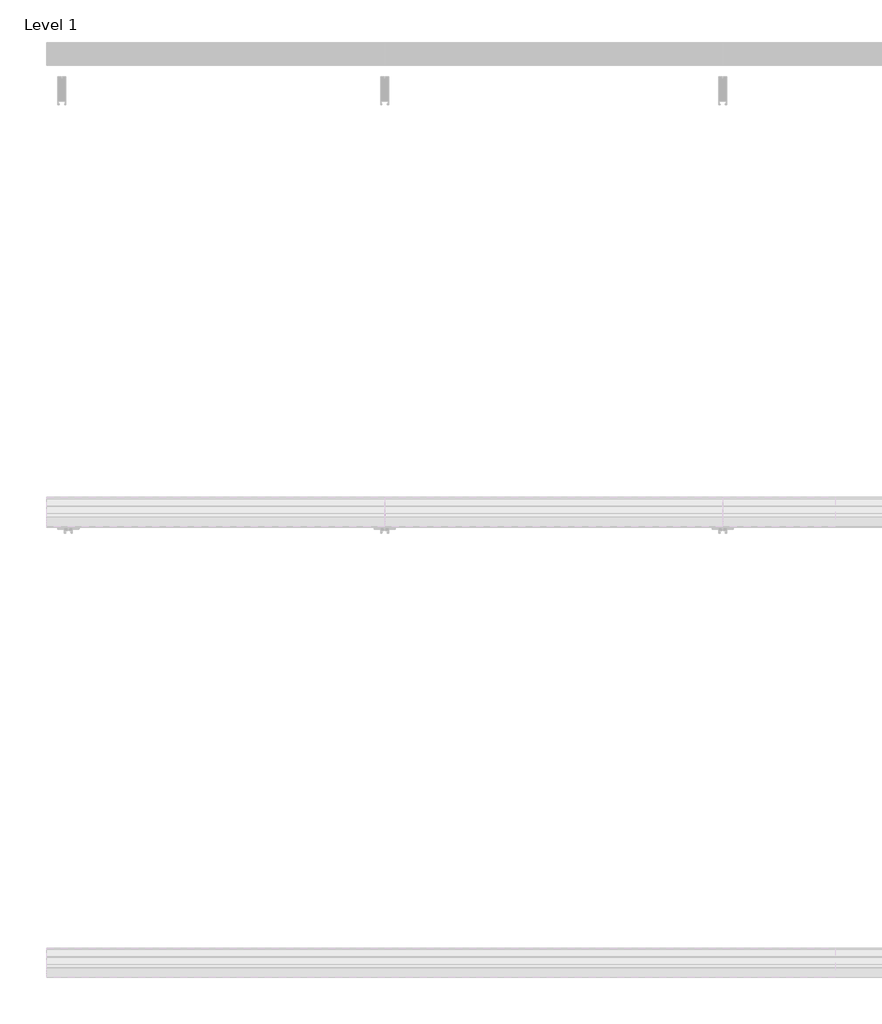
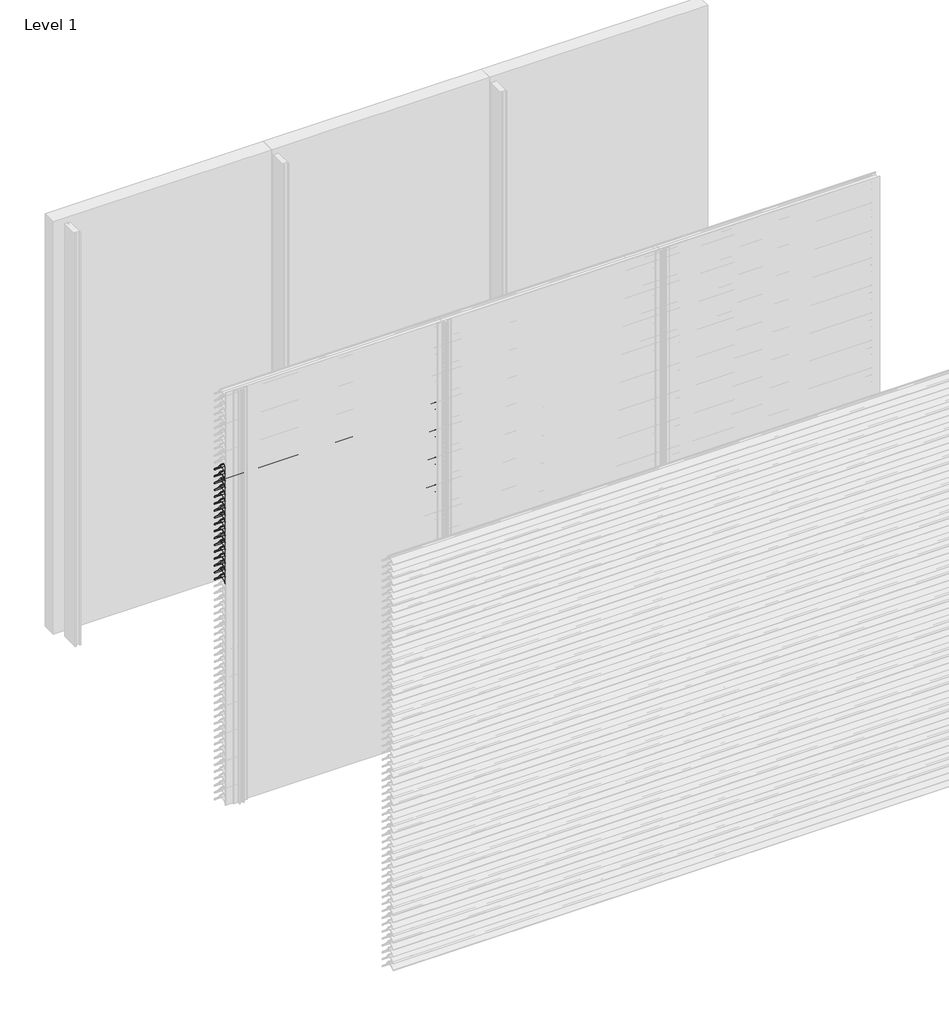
# One storey, part 7 of 173: 17 proxies.
"""IFC4 building model written with IfcOpenShell, lengths in millimetres."""

from ifc_helpers import new_model, si_unit, point, frame, frame_2d, origin, place, context, project, spatial, polyline, circle_curve, trimmed, segment, composite_curve, outline, extrude, element, save

model = new_model("IFC4")

# Units and contexts
model_context = context("Model", 3, world=origin())
ifc_project = project(units=[si_unit("LENGTHUNIT", "METRE", prefix="MILLI")], contexts=[model_context])

# Site, building, storey
site = spatial("IfcSite", under=ifc_project)
building = spatial("IfcBuilding", under=site)
storey = spatial("IfcBuildingStorey", under=building, Name="Level 1", Elevation=0.0)

# Proxies
placement = place(None, origin())
element("IfcBuildingElementProxy", 1, Name="Wall Sweeps", at=placement, inside=storey, context=model_context, shape_type="SweptSolid", body=[
    extrude(outline(composite_curve([segment(polyline([(-53998.0, 2409.1474905), (-53998.0, 2411.6227417)]), True, "CONTINUOUS"), segment(trimmed(circle_curve(frame_2d((-53951.2682172, 2366.2200208)), 65.1557103), [point((-53998.0, 2411.6227417))], [point((-53954.4014323, 2431.3003524))], False, "CARTESIAN"), True, "CONTINUOUS"), segment(polyline([(-53954.4014323, 2431.3003524), (-53934.8315836, 2431.3003524)]), True, "CONTINUOUS"), segment(trimmed(circle_curve(frame_2d((-53732.7329489, 2578.5533172)), 250.0545817), [point((-53934.8315836, 2431.3003524))], [point((-53941.4452143, 2440.8344583))], False, "CARTESIAN"), True, "CONTINUOUS"), segment(trimmed(circle_curve(frame_2d((-53953.2981792, 2435.1737835)), 13.1352966), [point((-53941.4452143, 2440.8344583))], [point((-53953.8171475, 2448.298824))], True, "CARTESIAN"), True, "CONTINUOUS"), segment(polyline([(-53953.8171475, 2448.298824), (-53953.8171475, 2450.0)]), True, "CONTINUOUS"), segment(trimmed(circle_curve(frame_2d((-53953.2981792, 2435.1737835)), 14.8352966), [point((-53953.8171475, 2450.0))], [point((-53939.9637661, 2441.6760487))], False, "CARTESIAN"), True, "CONTINUOUS"), segment(trimmed(circle_curve(frame_2d((-53732.7329489, 2578.5533172)), 248.3545817), [point((-53939.9637661, 2441.6760487))], [point((-53873.8787895, 2374.2059416))], True, "CARTESIAN"), True, "CONTINUOUS"), segment(trimmed(circle_curve(frame_2d((-53883.8147537, 2361.6649442)), 16.0), [point((-53873.8787895, 2374.2059416))], [point((-53867.8648347, 2360.4))], False, "CARTESIAN"), True, "CONTINUOUS"), segment(polyline([(-53867.8648347, 2360.4), (-53869.6712069, 2360.4)]), True, "CONTINUOUS"), segment(trimmed(circle_curve(frame_2d((-53883.8147537, 2361.6649442)), 14.2), [point((-53869.6712069, 2360.4))], [point((-53874.9518628, 2372.7594998))], True, "CARTESIAN"), True, "CONTINUOUS"), segment(trimmed(circle_curve(frame_2d((-53732.7329489, 2578.5533172)), 250.1545817), [point((-53874.9518628, 2372.7594998))], [point((-53933.7064024, 2429.6003524))], False, "CARTESIAN"), True, "CONTINUOUS"), segment(polyline([(-53933.7064024, 2429.6003524), (-53954.3602632, 2429.6003524)]), True, "CONTINUOUS"), segment(trimmed(circle_curve(frame_2d((-53951.2682172, 2366.2200208)), 63.4557103), [point((-53954.3602632, 2429.6003524))], [point((-53998.0, 2409.1474905))], True, "CARTESIAN"), True, "CONTINUOUS")], self_intersect=False)), frame((0.0, 0.0, 0.0), z_axis=(1.0, 0.0, 0.0), x_axis=(0.0, 1.0, 0.0)), (0.0, 0.0, 1.0), 1500.0),
])
element("IfcBuildingElementProxy", 2, Name="Wall Sweeps", at=placement, inside=storey, context=model_context, shape_type="SweptSolid", body=[
    extrude(outline(composite_curve([segment(polyline([(-53998.0, 2359.1474905), (-53998.0, 2361.6227417)]), True, "CONTINUOUS"), segment(trimmed(circle_curve(frame_2d((-53951.2682172, 2316.2200208)), 65.1557103), [point((-53998.0, 2361.6227417))], [point((-53954.4014323, 2381.3003524))], False, "CARTESIAN"), True, "CONTINUOUS"), segment(polyline([(-53954.4014323, 2381.3003524), (-53934.8315836, 2381.3003524)]), True, "CONTINUOUS"), segment(trimmed(circle_curve(frame_2d((-53732.7329489, 2528.5533172)), 250.0545817), [point((-53934.8315836, 2381.3003524))], [point((-53941.4452143, 2390.8344583))], False, "CARTESIAN"), True, "CONTINUOUS"), segment(trimmed(circle_curve(frame_2d((-53953.2981792, 2385.1737835)), 13.1352966), [point((-53941.4452143, 2390.8344583))], [point((-53953.8171475, 2398.298824))], True, "CARTESIAN"), True, "CONTINUOUS"), segment(polyline([(-53953.8171475, 2398.298824), (-53953.8171475, 2400.0)]), True, "CONTINUOUS"), segment(trimmed(circle_curve(frame_2d((-53953.2981792, 2385.1737835)), 14.8352966), [point((-53953.8171475, 2400.0))], [point((-53939.9637661, 2391.6760487))], False, "CARTESIAN"), True, "CONTINUOUS"), segment(trimmed(circle_curve(frame_2d((-53732.7329489, 2528.5533172)), 248.3545817), [point((-53939.9637661, 2391.6760487))], [point((-53873.8787895, 2324.2059416))], True, "CARTESIAN"), True, "CONTINUOUS"), segment(trimmed(circle_curve(frame_2d((-53883.8147537, 2311.6649442)), 16.0), [point((-53873.8787895, 2324.2059416))], [point((-53867.8648347, 2310.4))], False, "CARTESIAN"), True, "CONTINUOUS"), segment(polyline([(-53867.8648347, 2310.4), (-53869.6712069, 2310.4)]), True, "CONTINUOUS"), segment(trimmed(circle_curve(frame_2d((-53883.8147537, 2311.6649442)), 14.2), [point((-53869.6712069, 2310.4))], [point((-53874.9518628, 2322.7594998))], True, "CARTESIAN"), True, "CONTINUOUS"), segment(trimmed(circle_curve(frame_2d((-53732.7329489, 2528.5533172)), 250.1545817), [point((-53874.9518628, 2322.7594998))], [point((-53933.7064024, 2379.6003524))], False, "CARTESIAN"), True, "CONTINUOUS"), segment(polyline([(-53933.7064024, 2379.6003524), (-53954.3602632, 2379.6003524)]), True, "CONTINUOUS"), segment(trimmed(circle_curve(frame_2d((-53951.2682172, 2316.2200208)), 63.4557103), [point((-53954.3602632, 2379.6003524))], [point((-53998.0, 2359.1474905))], True, "CARTESIAN"), True, "CONTINUOUS")], self_intersect=False)), frame((0.0, 0.0, 0.0), z_axis=(1.0, 0.0, 0.0), x_axis=(0.0, 1.0, 0.0)), (0.0, 0.0, 1.0), 1500.0),
])
element("IfcBuildingElementProxy", 3, Name="Wall Sweeps", at=placement, inside=storey, context=model_context, shape_type="SweptSolid", body=[
    extrude(outline(composite_curve([segment(polyline([(-53998.0, 2309.1474905), (-53998.0, 2311.6227417)]), True, "CONTINUOUS"), segment(trimmed(circle_curve(frame_2d((-53951.2682172, 2266.2200208)), 65.1557103), [point((-53998.0, 2311.6227417))], [point((-53954.4014323, 2331.3003524))], False, "CARTESIAN"), True, "CONTINUOUS"), segment(polyline([(-53954.4014323, 2331.3003524), (-53934.8315836, 2331.3003524)]), True, "CONTINUOUS"), segment(trimmed(circle_curve(frame_2d((-53732.7329489, 2478.5533172)), 250.0545817), [point((-53934.8315836, 2331.3003524))], [point((-53941.4452143, 2340.8344583))], False, "CARTESIAN"), True, "CONTINUOUS"), segment(trimmed(circle_curve(frame_2d((-53953.2981792, 2335.1737835)), 13.1352966), [point((-53941.4452143, 2340.8344583))], [point((-53953.8171475, 2348.298824))], True, "CARTESIAN"), True, "CONTINUOUS"), segment(polyline([(-53953.8171475, 2348.298824), (-53953.8171475, 2350.0)]), True, "CONTINUOUS"), segment(trimmed(circle_curve(frame_2d((-53953.2981792, 2335.1737835)), 14.8352966), [point((-53953.8171475, 2350.0))], [point((-53939.9637661, 2341.6760487))], False, "CARTESIAN"), True, "CONTINUOUS"), segment(trimmed(circle_curve(frame_2d((-53732.7329489, 2478.5533172)), 248.3545817), [point((-53939.9637661, 2341.6760487))], [point((-53873.8787895, 2274.2059416))], True, "CARTESIAN"), True, "CONTINUOUS"), segment(trimmed(circle_curve(frame_2d((-53883.8147537, 2261.6649442)), 16.0), [point((-53873.8787895, 2274.2059416))], [point((-53867.8648347, 2260.4))], False, "CARTESIAN"), True, "CONTINUOUS"), segment(polyline([(-53867.8648347, 2260.4), (-53869.6712069, 2260.4)]), True, "CONTINUOUS"), segment(trimmed(circle_curve(frame_2d((-53883.8147537, 2261.6649442)), 14.2), [point((-53869.6712069, 2260.4))], [point((-53874.9518628, 2272.7594998))], True, "CARTESIAN"), True, "CONTINUOUS"), segment(trimmed(circle_curve(frame_2d((-53732.7329489, 2478.5533172)), 250.1545817), [point((-53874.9518628, 2272.7594998))], [point((-53933.7064024, 2329.6003524))], False, "CARTESIAN"), True, "CONTINUOUS"), segment(polyline([(-53933.7064024, 2329.6003524), (-53954.3602632, 2329.6003524)]), True, "CONTINUOUS"), segment(trimmed(circle_curve(frame_2d((-53951.2682172, 2266.2200208)), 63.4557103), [point((-53954.3602632, 2329.6003524))], [point((-53998.0, 2309.1474905))], True, "CARTESIAN"), True, "CONTINUOUS")], self_intersect=False)), frame((0.0, 0.0, 0.0), z_axis=(1.0, 0.0, 0.0), x_axis=(0.0, 1.0, 0.0)), (0.0, 0.0, 1.0), 1500.0),
])
element("IfcBuildingElementProxy", 4, Name="Wall Sweeps", at=placement, inside=storey, context=model_context, shape_type="SweptSolid", body=[
    extrude(outline(composite_curve([segment(polyline([(-53998.0, 2259.1474905), (-53998.0, 2261.6227417)]), True, "CONTINUOUS"), segment(trimmed(circle_curve(frame_2d((-53951.2682172, 2216.2200208)), 65.1557103), [point((-53998.0, 2261.6227417))], [point((-53954.4014323, 2281.3003524))], False, "CARTESIAN"), True, "CONTINUOUS"), segment(polyline([(-53954.4014323, 2281.3003524), (-53934.8315836, 2281.3003524)]), True, "CONTINUOUS"), segment(trimmed(circle_curve(frame_2d((-53732.7329489, 2428.5533172)), 250.0545817), [point((-53934.8315836, 2281.3003524))], [point((-53941.4452143, 2290.8344583))], False, "CARTESIAN"), True, "CONTINUOUS"), segment(trimmed(circle_curve(frame_2d((-53953.2981792, 2285.1737835)), 13.1352966), [point((-53941.4452143, 2290.8344583))], [point((-53953.8171475, 2298.298824))], True, "CARTESIAN"), True, "CONTINUOUS"), segment(polyline([(-53953.8171475, 2298.298824), (-53953.8171475, 2300.0)]), True, "CONTINUOUS"), segment(trimmed(circle_curve(frame_2d((-53953.2981792, 2285.1737835)), 14.8352966), [point((-53953.8171475, 2300.0))], [point((-53939.9637661, 2291.6760487))], False, "CARTESIAN"), True, "CONTINUOUS"), segment(trimmed(circle_curve(frame_2d((-53732.7329489, 2428.5533172)), 248.3545817), [point((-53939.9637661, 2291.6760487))], [point((-53873.8787895, 2224.2059416))], True, "CARTESIAN"), True, "CONTINUOUS"), segment(trimmed(circle_curve(frame_2d((-53883.8147537, 2211.6649442)), 16.0), [point((-53873.8787895, 2224.2059416))], [point((-53867.8648347, 2210.4))], False, "CARTESIAN"), True, "CONTINUOUS"), segment(polyline([(-53867.8648347, 2210.4), (-53869.6712069, 2210.4)]), True, "CONTINUOUS"), segment(trimmed(circle_curve(frame_2d((-53883.8147537, 2211.6649442)), 14.2), [point((-53869.6712069, 2210.4))], [point((-53874.9518628, 2222.7594998))], True, "CARTESIAN"), True, "CONTINUOUS"), segment(trimmed(circle_curve(frame_2d((-53732.7329489, 2428.5533172)), 250.1545817), [point((-53874.9518628, 2222.7594998))], [point((-53933.7064024, 2279.6003524))], False, "CARTESIAN"), True, "CONTINUOUS"), segment(polyline([(-53933.7064024, 2279.6003524), (-53954.3602632, 2279.6003524)]), True, "CONTINUOUS"), segment(trimmed(circle_curve(frame_2d((-53951.2682172, 2216.2200208)), 63.4557103), [point((-53954.3602632, 2279.6003524))], [point((-53998.0, 2259.1474905))], True, "CARTESIAN"), True, "CONTINUOUS")], self_intersect=False)), frame((0.0, 0.0, 0.0), z_axis=(1.0, 0.0, 0.0), x_axis=(0.0, 1.0, 0.0)), (0.0, 0.0, 1.0), 1500.0),
])
element("IfcBuildingElementProxy", 5, Name="Wall Sweeps", at=placement, inside=storey, context=model_context, shape_type="SweptSolid", body=[
    extrude(outline(composite_curve([segment(polyline([(-53998.0, 2209.1474905), (-53998.0, 2211.6227417)]), True, "CONTINUOUS"), segment(trimmed(circle_curve(frame_2d((-53951.2682172, 2166.2200208)), 65.1557103), [point((-53998.0, 2211.6227417))], [point((-53954.4014323, 2231.3003524))], False, "CARTESIAN"), True, "CONTINUOUS"), segment(polyline([(-53954.4014323, 2231.3003524), (-53934.8315836, 2231.3003524)]), True, "CONTINUOUS"), segment(trimmed(circle_curve(frame_2d((-53732.7329489, 2378.5533172)), 250.0545817), [point((-53934.8315836, 2231.3003524))], [point((-53941.4452143, 2240.8344583))], False, "CARTESIAN"), True, "CONTINUOUS"), segment(trimmed(circle_curve(frame_2d((-53953.2981792, 2235.1737835)), 13.1352966), [point((-53941.4452143, 2240.8344583))], [point((-53953.8171475, 2248.298824))], True, "CARTESIAN"), True, "CONTINUOUS"), segment(polyline([(-53953.8171475, 2248.298824), (-53953.8171475, 2250.0)]), True, "CONTINUOUS"), segment(trimmed(circle_curve(frame_2d((-53953.2981792, 2235.1737835)), 14.8352966), [point((-53953.8171475, 2250.0))], [point((-53939.9637661, 2241.6760487))], False, "CARTESIAN"), True, "CONTINUOUS"), segment(trimmed(circle_curve(frame_2d((-53732.7329489, 2378.5533172)), 248.3545817), [point((-53939.9637661, 2241.6760487))], [point((-53873.8787895, 2174.2059416))], True, "CARTESIAN"), True, "CONTINUOUS"), segment(trimmed(circle_curve(frame_2d((-53883.8147537, 2161.6649442)), 16.0), [point((-53873.8787895, 2174.2059416))], [point((-53867.8648347, 2160.4))], False, "CARTESIAN"), True, "CONTINUOUS"), segment(polyline([(-53867.8648347, 2160.4), (-53869.6712069, 2160.4)]), True, "CONTINUOUS"), segment(trimmed(circle_curve(frame_2d((-53883.8147537, 2161.6649442)), 14.2), [point((-53869.6712069, 2160.4))], [point((-53874.9518628, 2172.7594998))], True, "CARTESIAN"), True, "CONTINUOUS"), segment(trimmed(circle_curve(frame_2d((-53732.7329489, 2378.5533172)), 250.1545817), [point((-53874.9518628, 2172.7594998))], [point((-53933.7064024, 2229.6003524))], False, "CARTESIAN"), True, "CONTINUOUS"), segment(polyline([(-53933.7064024, 2229.6003524), (-53954.3602632, 2229.6003524)]), True, "CONTINUOUS"), segment(trimmed(circle_curve(frame_2d((-53951.2682172, 2166.2200208)), 63.4557103), [point((-53954.3602632, 2229.6003524))], [point((-53998.0, 2209.1474905))], True, "CARTESIAN"), True, "CONTINUOUS")], self_intersect=False)), frame((0.0, 0.0, 0.0), z_axis=(1.0, 0.0, 0.0), x_axis=(0.0, 1.0, 0.0)), (0.0, 0.0, 1.0), 1500.0),
])
element("IfcBuildingElementProxy", 6, Name="Wall Sweeps", at=placement, inside=storey, context=model_context, shape_type="SweptSolid", body=[
    extrude(outline(composite_curve([segment(polyline([(-53998.0, 2159.1474905), (-53998.0, 2161.6227417)]), True, "CONTINUOUS"), segment(trimmed(circle_curve(frame_2d((-53951.2682172, 2116.2200208)), 65.1557103), [point((-53998.0, 2161.6227417))], [point((-53954.4014323, 2181.3003524))], False, "CARTESIAN"), True, "CONTINUOUS"), segment(polyline([(-53954.4014323, 2181.3003524), (-53934.8315836, 2181.3003524)]), True, "CONTINUOUS"), segment(trimmed(circle_curve(frame_2d((-53732.7329489, 2328.5533172)), 250.0545817), [point((-53934.8315836, 2181.3003524))], [point((-53941.4452143, 2190.8344583))], False, "CARTESIAN"), True, "CONTINUOUS"), segment(trimmed(circle_curve(frame_2d((-53953.2981792, 2185.1737835)), 13.1352966), [point((-53941.4452143, 2190.8344583))], [point((-53953.8171475, 2198.298824))], True, "CARTESIAN"), True, "CONTINUOUS"), segment(polyline([(-53953.8171475, 2198.298824), (-53953.8171475, 2200.0)]), True, "CONTINUOUS"), segment(trimmed(circle_curve(frame_2d((-53953.2981792, 2185.1737835)), 14.8352966), [point((-53953.8171475, 2200.0))], [point((-53939.9637661, 2191.6760487))], False, "CARTESIAN"), True, "CONTINUOUS"), segment(trimmed(circle_curve(frame_2d((-53732.7329489, 2328.5533172)), 248.3545817), [point((-53939.9637661, 2191.6760487))], [point((-53873.8787895, 2124.2059416))], True, "CARTESIAN"), True, "CONTINUOUS"), segment(trimmed(circle_curve(frame_2d((-53883.8147537, 2111.6649442)), 16.0), [point((-53873.8787895, 2124.2059416))], [point((-53867.8648347, 2110.4))], False, "CARTESIAN"), True, "CONTINUOUS"), segment(polyline([(-53867.8648347, 2110.4), (-53869.6712069, 2110.4)]), True, "CONTINUOUS"), segment(trimmed(circle_curve(frame_2d((-53883.8147537, 2111.6649442)), 14.2), [point((-53869.6712069, 2110.4))], [point((-53874.9518628, 2122.7594998))], True, "CARTESIAN"), True, "CONTINUOUS"), segment(trimmed(circle_curve(frame_2d((-53732.7329489, 2328.5533172)), 250.1545817), [point((-53874.9518628, 2122.7594998))], [point((-53933.7064024, 2179.6003524))], False, "CARTESIAN"), True, "CONTINUOUS"), segment(polyline([(-53933.7064024, 2179.6003524), (-53954.3602632, 2179.6003524)]), True, "CONTINUOUS"), segment(trimmed(circle_curve(frame_2d((-53951.2682172, 2116.2200208)), 63.4557103), [point((-53954.3602632, 2179.6003524))], [point((-53998.0, 2159.1474905))], True, "CARTESIAN"), True, "CONTINUOUS")], self_intersect=False)), frame((0.0, 0.0, 0.0), z_axis=(1.0, 0.0, 0.0), x_axis=(0.0, 1.0, 0.0)), (0.0, 0.0, 1.0), 1500.0),
])
element("IfcBuildingElementProxy", 7, Name="Wall Sweeps", at=placement, inside=storey, context=model_context, shape_type="SweptSolid", body=[
    extrude(outline(composite_curve([segment(polyline([(-53998.0, 2109.1474905), (-53998.0, 2111.6227417)]), True, "CONTINUOUS"), segment(trimmed(circle_curve(frame_2d((-53951.2682172, 2066.2200208)), 65.1557103), [point((-53998.0, 2111.6227417))], [point((-53954.4014323, 2131.3003524))], False, "CARTESIAN"), True, "CONTINUOUS"), segment(polyline([(-53954.4014323, 2131.3003524), (-53934.8315836, 2131.3003524)]), True, "CONTINUOUS"), segment(trimmed(circle_curve(frame_2d((-53732.7329489, 2278.5533172)), 250.0545817), [point((-53934.8315836, 2131.3003524))], [point((-53941.4452143, 2140.8344583))], False, "CARTESIAN"), True, "CONTINUOUS"), segment(trimmed(circle_curve(frame_2d((-53953.2981792, 2135.1737835)), 13.1352966), [point((-53941.4452143, 2140.8344583))], [point((-53953.8171475, 2148.298824))], True, "CARTESIAN"), True, "CONTINUOUS"), segment(polyline([(-53953.8171475, 2148.298824), (-53953.8171475, 2150.0)]), True, "CONTINUOUS"), segment(trimmed(circle_curve(frame_2d((-53953.2981792, 2135.1737835)), 14.8352966), [point((-53953.8171475, 2150.0))], [point((-53939.9637661, 2141.6760487))], False, "CARTESIAN"), True, "CONTINUOUS"), segment(trimmed(circle_curve(frame_2d((-53732.7329489, 2278.5533172)), 248.3545817), [point((-53939.9637661, 2141.6760487))], [point((-53873.8787895, 2074.2059416))], True, "CARTESIAN"), True, "CONTINUOUS"), segment(trimmed(circle_curve(frame_2d((-53883.8147537, 2061.6649442)), 16.0), [point((-53873.8787895, 2074.2059416))], [point((-53867.8648347, 2060.4))], False, "CARTESIAN"), True, "CONTINUOUS"), segment(polyline([(-53867.8648347, 2060.4), (-53869.6712069, 2060.4)]), True, "CONTINUOUS"), segment(trimmed(circle_curve(frame_2d((-53883.8147537, 2061.6649442)), 14.2), [point((-53869.6712069, 2060.4))], [point((-53874.9518628, 2072.7594998))], True, "CARTESIAN"), True, "CONTINUOUS"), segment(trimmed(circle_curve(frame_2d((-53732.7329489, 2278.5533172)), 250.1545817), [point((-53874.9518628, 2072.7594998))], [point((-53933.7064024, 2129.6003524))], False, "CARTESIAN"), True, "CONTINUOUS"), segment(polyline([(-53933.7064024, 2129.6003524), (-53954.3602632, 2129.6003524)]), True, "CONTINUOUS"), segment(trimmed(circle_curve(frame_2d((-53951.2682172, 2066.2200208)), 63.4557103), [point((-53954.3602632, 2129.6003524))], [point((-53998.0, 2109.1474905))], True, "CARTESIAN"), True, "CONTINUOUS")], self_intersect=False)), frame((0.0, 0.0, 0.0), z_axis=(1.0, 0.0, 0.0), x_axis=(0.0, 1.0, 0.0)), (0.0, 0.0, 1.0), 1500.0),
])
element("IfcBuildingElementProxy", 8, Name="Wall Sweeps", at=placement, inside=storey, context=model_context, shape_type="SweptSolid", body=[
    extrude(outline(composite_curve([segment(polyline([(-53998.0, 2059.1474905), (-53998.0, 2061.6227417)]), True, "CONTINUOUS"), segment(trimmed(circle_curve(frame_2d((-53951.2682172, 2016.2200208)), 65.1557103), [point((-53998.0, 2061.6227417))], [point((-53954.4014323, 2081.3003524))], False, "CARTESIAN"), True, "CONTINUOUS"), segment(polyline([(-53954.4014323, 2081.3003524), (-53934.8315836, 2081.3003524)]), True, "CONTINUOUS"), segment(trimmed(circle_curve(frame_2d((-53732.7329489, 2228.5533172)), 250.0545817), [point((-53934.8315836, 2081.3003524))], [point((-53941.4452143, 2090.8344583))], False, "CARTESIAN"), True, "CONTINUOUS"), segment(trimmed(circle_curve(frame_2d((-53953.2981792, 2085.1737835)), 13.1352966), [point((-53941.4452143, 2090.8344583))], [point((-53953.8171475, 2098.298824))], True, "CARTESIAN"), True, "CONTINUOUS"), segment(polyline([(-53953.8171475, 2098.298824), (-53953.8171475, 2100.0)]), True, "CONTINUOUS"), segment(trimmed(circle_curve(frame_2d((-53953.2981792, 2085.1737835)), 14.8352966), [point((-53953.8171475, 2100.0))], [point((-53939.9637661, 2091.6760487))], False, "CARTESIAN"), True, "CONTINUOUS"), segment(trimmed(circle_curve(frame_2d((-53732.7329489, 2228.5533172)), 248.3545817), [point((-53939.9637661, 2091.6760487))], [point((-53873.8787895, 2024.2059416))], True, "CARTESIAN"), True, "CONTINUOUS"), segment(trimmed(circle_curve(frame_2d((-53883.8147537, 2011.6649442)), 16.0), [point((-53873.8787895, 2024.2059416))], [point((-53867.8648347, 2010.4))], False, "CARTESIAN"), True, "CONTINUOUS"), segment(polyline([(-53867.8648347, 2010.4), (-53869.6712069, 2010.4)]), True, "CONTINUOUS"), segment(trimmed(circle_curve(frame_2d((-53883.8147537, 2011.6649442)), 14.2), [point((-53869.6712069, 2010.4))], [point((-53874.9518628, 2022.7594998))], True, "CARTESIAN"), True, "CONTINUOUS"), segment(trimmed(circle_curve(frame_2d((-53732.7329489, 2228.5533172)), 250.1545817), [point((-53874.9518628, 2022.7594998))], [point((-53933.7064024, 2079.6003524))], False, "CARTESIAN"), True, "CONTINUOUS"), segment(polyline([(-53933.7064024, 2079.6003524), (-53954.3602632, 2079.6003524)]), True, "CONTINUOUS"), segment(trimmed(circle_curve(frame_2d((-53951.2682172, 2016.2200208)), 63.4557103), [point((-53954.3602632, 2079.6003524))], [point((-53998.0, 2059.1474905))], True, "CARTESIAN"), True, "CONTINUOUS")], self_intersect=False)), frame((0.0, 0.0, 0.0), z_axis=(1.0, 0.0, 0.0), x_axis=(0.0, 1.0, 0.0)), (0.0, 0.0, 1.0), 1500.0),
])
element("IfcBuildingElementProxy", 9, Name="Wall Sweeps", at=placement, inside=storey, context=model_context, shape_type="SweptSolid", body=[
    extrude(outline(composite_curve([segment(polyline([(-53998.0, 2009.1474905), (-53998.0, 2011.6227417)]), True, "CONTINUOUS"), segment(trimmed(circle_curve(frame_2d((-53951.2682172, 1966.2200208)), 65.1557103), [point((-53998.0, 2011.6227417))], [point((-53954.4014323, 2031.3003524))], False, "CARTESIAN"), True, "CONTINUOUS"), segment(polyline([(-53954.4014323, 2031.3003524), (-53934.8315836, 2031.3003524)]), True, "CONTINUOUS"), segment(trimmed(circle_curve(frame_2d((-53732.7329489, 2178.5533172)), 250.0545817), [point((-53934.8315836, 2031.3003524))], [point((-53941.4452143, 2040.8344583))], False, "CARTESIAN"), True, "CONTINUOUS"), segment(trimmed(circle_curve(frame_2d((-53953.2981792, 2035.1737835)), 13.1352966), [point((-53941.4452143, 2040.8344583))], [point((-53953.8171475, 2048.298824))], True, "CARTESIAN"), True, "CONTINUOUS"), segment(polyline([(-53953.8171475, 2048.298824), (-53953.8171475, 2050.0)]), True, "CONTINUOUS"), segment(trimmed(circle_curve(frame_2d((-53953.2981792, 2035.1737835)), 14.8352966), [point((-53953.8171475, 2050.0))], [point((-53939.9637661, 2041.6760487))], False, "CARTESIAN"), True, "CONTINUOUS"), segment(trimmed(circle_curve(frame_2d((-53732.7329489, 2178.5533172)), 248.3545817), [point((-53939.9637661, 2041.6760487))], [point((-53873.8787895, 1974.2059416))], True, "CARTESIAN"), True, "CONTINUOUS"), segment(trimmed(circle_curve(frame_2d((-53883.8147537, 1961.6649442)), 16.0), [point((-53873.8787895, 1974.2059416))], [point((-53867.8648347, 1960.4))], False, "CARTESIAN"), True, "CONTINUOUS"), segment(polyline([(-53867.8648347, 1960.4), (-53869.6712069, 1960.4)]), True, "CONTINUOUS"), segment(trimmed(circle_curve(frame_2d((-53883.8147537, 1961.6649442)), 14.2), [point((-53869.6712069, 1960.4))], [point((-53874.9518628, 1972.7594998))], True, "CARTESIAN"), True, "CONTINUOUS"), segment(trimmed(circle_curve(frame_2d((-53732.7329489, 2178.5533172)), 250.1545817), [point((-53874.9518628, 1972.7594998))], [point((-53933.7064024, 2029.6003524))], False, "CARTESIAN"), True, "CONTINUOUS"), segment(polyline([(-53933.7064024, 2029.6003524), (-53954.3602632, 2029.6003524)]), True, "CONTINUOUS"), segment(trimmed(circle_curve(frame_2d((-53951.2682172, 1966.2200208)), 63.4557103), [point((-53954.3602632, 2029.6003524))], [point((-53998.0, 2009.1474905))], True, "CARTESIAN"), True, "CONTINUOUS")], self_intersect=False)), frame((0.0, 0.0, 0.0), z_axis=(1.0, 0.0, 0.0), x_axis=(0.0, 1.0, 0.0)), (0.0, 0.0, 1.0), 1500.0),
])
element("IfcBuildingElementProxy", 10, Name="Wall Sweeps", at=placement, inside=storey, context=model_context, shape_type="SweptSolid", body=[
    extrude(outline(composite_curve([segment(polyline([(-53998.0, 1959.1474905), (-53998.0, 1961.6227417)]), True, "CONTINUOUS"), segment(trimmed(circle_curve(frame_2d((-53951.2682172, 1916.2200208)), 65.1557103), [point((-53998.0, 1961.6227417))], [point((-53954.4014323, 1981.3003524))], False, "CARTESIAN"), True, "CONTINUOUS"), segment(polyline([(-53954.4014323, 1981.3003524), (-53934.8315836, 1981.3003524)]), True, "CONTINUOUS"), segment(trimmed(circle_curve(frame_2d((-53732.7329489, 2128.5533172)), 250.0545817), [point((-53934.8315836, 1981.3003524))], [point((-53941.4452143, 1990.8344583))], False, "CARTESIAN"), True, "CONTINUOUS"), segment(trimmed(circle_curve(frame_2d((-53953.2981792, 1985.1737835)), 13.1352966), [point((-53941.4452143, 1990.8344583))], [point((-53953.8171475, 1998.298824))], True, "CARTESIAN"), True, "CONTINUOUS"), segment(polyline([(-53953.8171475, 1998.298824), (-53953.8171475, 2000.0)]), True, "CONTINUOUS"), segment(trimmed(circle_curve(frame_2d((-53953.2981792, 1985.1737835)), 14.8352966), [point((-53953.8171475, 2000.0))], [point((-53939.9637661, 1991.6760487))], False, "CARTESIAN"), True, "CONTINUOUS"), segment(trimmed(circle_curve(frame_2d((-53732.7329489, 2128.5533172)), 248.3545817), [point((-53939.9637661, 1991.6760487))], [point((-53873.8787895, 1924.2059416))], True, "CARTESIAN"), True, "CONTINUOUS"), segment(trimmed(circle_curve(frame_2d((-53883.8147537, 1911.6649442)), 16.0), [point((-53873.8787895, 1924.2059416))], [point((-53867.8648347, 1910.4))], False, "CARTESIAN"), True, "CONTINUOUS"), segment(polyline([(-53867.8648347, 1910.4), (-53869.6712069, 1910.4)]), True, "CONTINUOUS"), segment(trimmed(circle_curve(frame_2d((-53883.8147537, 1911.6649442)), 14.2), [point((-53869.6712069, 1910.4))], [point((-53874.9518628, 1922.7594998))], True, "CARTESIAN"), True, "CONTINUOUS"), segment(trimmed(circle_curve(frame_2d((-53732.7329489, 2128.5533172)), 250.1545817), [point((-53874.9518628, 1922.7594998))], [point((-53933.7064024, 1979.6003524))], False, "CARTESIAN"), True, "CONTINUOUS"), segment(polyline([(-53933.7064024, 1979.6003524), (-53954.3602632, 1979.6003524)]), True, "CONTINUOUS"), segment(trimmed(circle_curve(frame_2d((-53951.2682172, 1916.2200208)), 63.4557103), [point((-53954.3602632, 1979.6003524))], [point((-53998.0, 1959.1474905))], True, "CARTESIAN"), True, "CONTINUOUS")], self_intersect=False)), frame((0.0, 0.0, 0.0), z_axis=(1.0, 0.0, 0.0), x_axis=(0.0, 1.0, 0.0)), (0.0, 0.0, 1.0), 1500.0),
])
element("IfcBuildingElementProxy", 11, Name="Wall Sweeps", at=placement, inside=storey, context=model_context, shape_type="SweptSolid", body=[
    extrude(outline(composite_curve([segment(polyline([(-53998.0, 1909.1474905), (-53998.0, 1911.6227417)]), True, "CONTINUOUS"), segment(trimmed(circle_curve(frame_2d((-53951.2682172, 1866.2200208)), 65.1557103), [point((-53998.0, 1911.6227417))], [point((-53954.4014323, 1931.3003524))], False, "CARTESIAN"), True, "CONTINUOUS"), segment(polyline([(-53954.4014323, 1931.3003524), (-53934.8315836, 1931.3003524)]), True, "CONTINUOUS"), segment(trimmed(circle_curve(frame_2d((-53732.7329489, 2078.5533172)), 250.0545817), [point((-53934.8315836, 1931.3003524))], [point((-53941.4452143, 1940.8344583))], False, "CARTESIAN"), True, "CONTINUOUS"), segment(trimmed(circle_curve(frame_2d((-53953.2981792, 1935.1737835)), 13.1352966), [point((-53941.4452143, 1940.8344583))], [point((-53953.8171475, 1948.298824))], True, "CARTESIAN"), True, "CONTINUOUS"), segment(polyline([(-53953.8171475, 1948.298824), (-53953.8171475, 1950.0)]), True, "CONTINUOUS"), segment(trimmed(circle_curve(frame_2d((-53953.2981792, 1935.1737835)), 14.8352966), [point((-53953.8171475, 1950.0))], [point((-53939.9637661, 1941.6760487))], False, "CARTESIAN"), True, "CONTINUOUS"), segment(trimmed(circle_curve(frame_2d((-53732.7329489, 2078.5533172)), 248.3545817), [point((-53939.9637661, 1941.6760487))], [point((-53873.8787895, 1874.2059416))], True, "CARTESIAN"), True, "CONTINUOUS"), segment(trimmed(circle_curve(frame_2d((-53883.8147537, 1861.6649442)), 16.0), [point((-53873.8787895, 1874.2059416))], [point((-53867.8648347, 1860.4))], False, "CARTESIAN"), True, "CONTINUOUS"), segment(polyline([(-53867.8648347, 1860.4), (-53869.6712069, 1860.4)]), True, "CONTINUOUS"), segment(trimmed(circle_curve(frame_2d((-53883.8147537, 1861.6649442)), 14.2), [point((-53869.6712069, 1860.4))], [point((-53874.9518628, 1872.7594998))], True, "CARTESIAN"), True, "CONTINUOUS"), segment(trimmed(circle_curve(frame_2d((-53732.7329489, 2078.5533172)), 250.1545817), [point((-53874.9518628, 1872.7594998))], [point((-53933.7064024, 1929.6003524))], False, "CARTESIAN"), True, "CONTINUOUS"), segment(polyline([(-53933.7064024, 1929.6003524), (-53954.3602632, 1929.6003524)]), True, "CONTINUOUS"), segment(trimmed(circle_curve(frame_2d((-53951.2682172, 1866.2200208)), 63.4557103), [point((-53954.3602632, 1929.6003524))], [point((-53998.0, 1909.1474905))], True, "CARTESIAN"), True, "CONTINUOUS")], self_intersect=False)), frame((0.0, 0.0, 0.0), z_axis=(1.0, 0.0, 0.0), x_axis=(0.0, 1.0, 0.0)), (0.0, 0.0, 1.0), 1500.0),
])
element("IfcBuildingElementProxy", 12, Name="Wall Sweeps", at=placement, inside=storey, context=model_context, shape_type="SweptSolid", body=[
    extrude(outline(composite_curve([segment(polyline([(-53998.0, 1859.1474905), (-53998.0, 1861.6227417)]), True, "CONTINUOUS"), segment(trimmed(circle_curve(frame_2d((-53951.2682172, 1816.2200208)), 65.1557103), [point((-53998.0, 1861.6227417))], [point((-53954.4014323, 1881.3003524))], False, "CARTESIAN"), True, "CONTINUOUS"), segment(polyline([(-53954.4014323, 1881.3003524), (-53934.8315836, 1881.3003524)]), True, "CONTINUOUS"), segment(trimmed(circle_curve(frame_2d((-53732.7329489, 2028.5533172)), 250.0545817), [point((-53934.8315836, 1881.3003524))], [point((-53941.4452143, 1890.8344583))], False, "CARTESIAN"), True, "CONTINUOUS"), segment(trimmed(circle_curve(frame_2d((-53953.2981792, 1885.1737835)), 13.1352966), [point((-53941.4452143, 1890.8344583))], [point((-53953.8171475, 1898.298824))], True, "CARTESIAN"), True, "CONTINUOUS"), segment(polyline([(-53953.8171475, 1898.298824), (-53953.8171475, 1900.0)]), True, "CONTINUOUS"), segment(trimmed(circle_curve(frame_2d((-53953.2981792, 1885.1737835)), 14.8352966), [point((-53953.8171475, 1900.0))], [point((-53939.9637661, 1891.6760487))], False, "CARTESIAN"), True, "CONTINUOUS"), segment(trimmed(circle_curve(frame_2d((-53732.7329489, 2028.5533172)), 248.3545817), [point((-53939.9637661, 1891.6760487))], [point((-53873.8787895, 1824.2059416))], True, "CARTESIAN"), True, "CONTINUOUS"), segment(trimmed(circle_curve(frame_2d((-53883.8147537, 1811.6649442)), 16.0), [point((-53873.8787895, 1824.2059416))], [point((-53867.8648347, 1810.4))], False, "CARTESIAN"), True, "CONTINUOUS"), segment(polyline([(-53867.8648347, 1810.4), (-53869.6712069, 1810.4)]), True, "CONTINUOUS"), segment(trimmed(circle_curve(frame_2d((-53883.8147537, 1811.6649442)), 14.2), [point((-53869.6712069, 1810.4))], [point((-53874.9518628, 1822.7594998))], True, "CARTESIAN"), True, "CONTINUOUS"), segment(trimmed(circle_curve(frame_2d((-53732.7329489, 2028.5533172)), 250.1545817), [point((-53874.9518628, 1822.7594998))], [point((-53933.7064024, 1879.6003524))], False, "CARTESIAN"), True, "CONTINUOUS"), segment(polyline([(-53933.7064024, 1879.6003524), (-53954.3602632, 1879.6003524)]), True, "CONTINUOUS"), segment(trimmed(circle_curve(frame_2d((-53951.2682172, 1816.2200208)), 63.4557103), [point((-53954.3602632, 1879.6003524))], [point((-53998.0, 1859.1474905))], True, "CARTESIAN"), True, "CONTINUOUS")], self_intersect=False)), frame((0.0, 0.0, 0.0), z_axis=(1.0, 0.0, 0.0), x_axis=(0.0, 1.0, 0.0)), (0.0, 0.0, 1.0), 1500.0),
])
element("IfcBuildingElementProxy", 13, Name="Wall Sweeps", at=placement, inside=storey, context=model_context, shape_type="SweptSolid", body=[
    extrude(outline(composite_curve([segment(polyline([(-53998.0, 1809.1474905), (-53998.0, 1811.6227417)]), True, "CONTINUOUS"), segment(trimmed(circle_curve(frame_2d((-53951.2682172, 1766.2200208)), 65.1557103), [point((-53998.0, 1811.6227417))], [point((-53954.4014323, 1831.3003524))], False, "CARTESIAN"), True, "CONTINUOUS"), segment(polyline([(-53954.4014323, 1831.3003524), (-53934.8315836, 1831.3003524)]), True, "CONTINUOUS"), segment(trimmed(circle_curve(frame_2d((-53732.7329489, 1978.5533172)), 250.0545817), [point((-53934.8315836, 1831.3003524))], [point((-53941.4452143, 1840.8344583))], False, "CARTESIAN"), True, "CONTINUOUS"), segment(trimmed(circle_curve(frame_2d((-53953.2981792, 1835.1737835)), 13.1352966), [point((-53941.4452143, 1840.8344583))], [point((-53953.8171475, 1848.298824))], True, "CARTESIAN"), True, "CONTINUOUS"), segment(polyline([(-53953.8171475, 1848.298824), (-53953.8171475, 1850.0)]), True, "CONTINUOUS"), segment(trimmed(circle_curve(frame_2d((-53953.2981792, 1835.1737835)), 14.8352966), [point((-53953.8171475, 1850.0))], [point((-53939.9637661, 1841.6760487))], False, "CARTESIAN"), True, "CONTINUOUS"), segment(trimmed(circle_curve(frame_2d((-53732.7329489, 1978.5533172)), 248.3545817), [point((-53939.9637661, 1841.6760487))], [point((-53873.8787895, 1774.2059416))], True, "CARTESIAN"), True, "CONTINUOUS"), segment(trimmed(circle_curve(frame_2d((-53883.8147537, 1761.6649442)), 16.0), [point((-53873.8787895, 1774.2059416))], [point((-53867.8648347, 1760.4))], False, "CARTESIAN"), True, "CONTINUOUS"), segment(polyline([(-53867.8648347, 1760.4), (-53869.6712069, 1760.4)]), True, "CONTINUOUS"), segment(trimmed(circle_curve(frame_2d((-53883.8147537, 1761.6649442)), 14.2), [point((-53869.6712069, 1760.4))], [point((-53874.9518628, 1772.7594998))], True, "CARTESIAN"), True, "CONTINUOUS"), segment(trimmed(circle_curve(frame_2d((-53732.7329489, 1978.5533172)), 250.1545817), [point((-53874.9518628, 1772.7594998))], [point((-53933.7064024, 1829.6003524))], False, "CARTESIAN"), True, "CONTINUOUS"), segment(polyline([(-53933.7064024, 1829.6003524), (-53954.3602632, 1829.6003524)]), True, "CONTINUOUS"), segment(trimmed(circle_curve(frame_2d((-53951.2682172, 1766.2200208)), 63.4557103), [point((-53954.3602632, 1829.6003524))], [point((-53998.0, 1809.1474905))], True, "CARTESIAN"), True, "CONTINUOUS")], self_intersect=False)), frame((0.0, 0.0, 0.0), z_axis=(1.0, 0.0, 0.0), x_axis=(0.0, 1.0, 0.0)), (0.0, 0.0, 1.0), 1500.0),
])
element("IfcBuildingElementProxy", 14, Name="Wall Sweeps", at=placement, inside=storey, context=model_context, shape_type="SweptSolid", body=[
    extrude(outline(composite_curve([segment(polyline([(-53998.0, 1759.1474905), (-53998.0, 1761.6227417)]), True, "CONTINUOUS"), segment(trimmed(circle_curve(frame_2d((-53951.2682172, 1716.2200208)), 65.1557103), [point((-53998.0, 1761.6227417))], [point((-53954.4014323, 1781.3003524))], False, "CARTESIAN"), True, "CONTINUOUS"), segment(polyline([(-53954.4014323, 1781.3003524), (-53934.8315836, 1781.3003524)]), True, "CONTINUOUS"), segment(trimmed(circle_curve(frame_2d((-53732.7329489, 1928.5533172)), 250.0545817), [point((-53934.8315836, 1781.3003524))], [point((-53941.4452143, 1790.8344583))], False, "CARTESIAN"), True, "CONTINUOUS"), segment(trimmed(circle_curve(frame_2d((-53953.2981792, 1785.1737835)), 13.1352966), [point((-53941.4452143, 1790.8344583))], [point((-53953.8171475, 1798.298824))], True, "CARTESIAN"), True, "CONTINUOUS"), segment(polyline([(-53953.8171475, 1798.298824), (-53953.8171475, 1800.0)]), True, "CONTINUOUS"), segment(trimmed(circle_curve(frame_2d((-53953.2981792, 1785.1737835)), 14.8352966), [point((-53953.8171475, 1800.0))], [point((-53939.9637661, 1791.6760487))], False, "CARTESIAN"), True, "CONTINUOUS"), segment(trimmed(circle_curve(frame_2d((-53732.7329489, 1928.5533172)), 248.3545817), [point((-53939.9637661, 1791.6760487))], [point((-53873.8787895, 1724.2059416))], True, "CARTESIAN"), True, "CONTINUOUS"), segment(trimmed(circle_curve(frame_2d((-53883.8147537, 1711.6649442)), 16.0), [point((-53873.8787895, 1724.2059416))], [point((-53867.8648347, 1710.4))], False, "CARTESIAN"), True, "CONTINUOUS"), segment(polyline([(-53867.8648347, 1710.4), (-53869.6712069, 1710.4)]), True, "CONTINUOUS"), segment(trimmed(circle_curve(frame_2d((-53883.8147537, 1711.6649442)), 14.2), [point((-53869.6712069, 1710.4))], [point((-53874.9518628, 1722.7594998))], True, "CARTESIAN"), True, "CONTINUOUS"), segment(trimmed(circle_curve(frame_2d((-53732.7329489, 1928.5533172)), 250.1545817), [point((-53874.9518628, 1722.7594998))], [point((-53933.7064024, 1779.6003524))], False, "CARTESIAN"), True, "CONTINUOUS"), segment(polyline([(-53933.7064024, 1779.6003524), (-53954.3602632, 1779.6003524)]), True, "CONTINUOUS"), segment(trimmed(circle_curve(frame_2d((-53951.2682172, 1716.2200208)), 63.4557103), [point((-53954.3602632, 1779.6003524))], [point((-53998.0, 1759.1474905))], True, "CARTESIAN"), True, "CONTINUOUS")], self_intersect=False)), frame((0.0, 0.0, 0.0), z_axis=(1.0, 0.0, 0.0), x_axis=(0.0, 1.0, 0.0)), (0.0, 0.0, 1.0), 1500.0),
])
element("IfcBuildingElementProxy", 15, Name="Wall Sweeps", at=placement, inside=storey, context=model_context, shape_type="SweptSolid", body=[
    extrude(outline(composite_curve([segment(polyline([(-53998.0, 1709.1474905), (-53998.0, 1711.6227417)]), True, "CONTINUOUS"), segment(trimmed(circle_curve(frame_2d((-53951.2682172, 1666.2200208)), 65.1557103), [point((-53998.0, 1711.6227417))], [point((-53954.4014323, 1731.3003524))], False, "CARTESIAN"), True, "CONTINUOUS"), segment(polyline([(-53954.4014323, 1731.3003524), (-53934.8315836, 1731.3003524)]), True, "CONTINUOUS"), segment(trimmed(circle_curve(frame_2d((-53732.7329489, 1878.5533172)), 250.0545817), [point((-53934.8315836, 1731.3003524))], [point((-53941.4452143, 1740.8344583))], False, "CARTESIAN"), True, "CONTINUOUS"), segment(trimmed(circle_curve(frame_2d((-53953.2981792, 1735.1737835)), 13.1352966), [point((-53941.4452143, 1740.8344583))], [point((-53953.8171475, 1748.298824))], True, "CARTESIAN"), True, "CONTINUOUS"), segment(polyline([(-53953.8171475, 1748.298824), (-53953.8171475, 1750.0)]), True, "CONTINUOUS"), segment(trimmed(circle_curve(frame_2d((-53953.2981792, 1735.1737835)), 14.8352966), [point((-53953.8171475, 1750.0))], [point((-53939.9637661, 1741.6760487))], False, "CARTESIAN"), True, "CONTINUOUS"), segment(trimmed(circle_curve(frame_2d((-53732.7329489, 1878.5533172)), 248.3545817), [point((-53939.9637661, 1741.6760487))], [point((-53873.8787895, 1674.2059416))], True, "CARTESIAN"), True, "CONTINUOUS"), segment(trimmed(circle_curve(frame_2d((-53883.8147537, 1661.6649442)), 16.0), [point((-53873.8787895, 1674.2059416))], [point((-53867.8648347, 1660.4))], False, "CARTESIAN"), True, "CONTINUOUS"), segment(polyline([(-53867.8648347, 1660.4), (-53869.6712069, 1660.4)]), True, "CONTINUOUS"), segment(trimmed(circle_curve(frame_2d((-53883.8147537, 1661.6649442)), 14.2), [point((-53869.6712069, 1660.4))], [point((-53874.9518628, 1672.7594998))], True, "CARTESIAN"), True, "CONTINUOUS"), segment(trimmed(circle_curve(frame_2d((-53732.7329489, 1878.5533172)), 250.1545817), [point((-53874.9518628, 1672.7594998))], [point((-53933.7064024, 1729.6003524))], False, "CARTESIAN"), True, "CONTINUOUS"), segment(polyline([(-53933.7064024, 1729.6003524), (-53954.3602632, 1729.6003524)]), True, "CONTINUOUS"), segment(trimmed(circle_curve(frame_2d((-53951.2682172, 1666.2200208)), 63.4557103), [point((-53954.3602632, 1729.6003524))], [point((-53998.0, 1709.1474905))], True, "CARTESIAN"), True, "CONTINUOUS")], self_intersect=False)), frame((0.0, 0.0, 0.0), z_axis=(1.0, 0.0, 0.0), x_axis=(0.0, 1.0, 0.0)), (0.0, 0.0, 1.0), 1500.0),
])
element("IfcBuildingElementProxy", 16, Name="Wall Sweeps", at=placement, inside=storey, context=model_context, shape_type="SweptSolid", body=[
    extrude(outline(composite_curve([segment(polyline([(-53998.0, 1659.1474905), (-53998.0, 1661.6227417)]), True, "CONTINUOUS"), segment(trimmed(circle_curve(frame_2d((-53951.2682172, 1616.2200208)), 65.1557103), [point((-53998.0, 1661.6227417))], [point((-53954.4014323, 1681.3003524))], False, "CARTESIAN"), True, "CONTINUOUS"), segment(polyline([(-53954.4014323, 1681.3003524), (-53934.8315836, 1681.3003524)]), True, "CONTINUOUS"), segment(trimmed(circle_curve(frame_2d((-53732.7329489, 1828.5533172)), 250.0545817), [point((-53934.8315836, 1681.3003524))], [point((-53941.4452143, 1690.8344583))], False, "CARTESIAN"), True, "CONTINUOUS"), segment(trimmed(circle_curve(frame_2d((-53953.2981792, 1685.1737835)), 13.1352966), [point((-53941.4452143, 1690.8344583))], [point((-53953.8171475, 1698.298824))], True, "CARTESIAN"), True, "CONTINUOUS"), segment(polyline([(-53953.8171475, 1698.298824), (-53953.8171475, 1700.0)]), True, "CONTINUOUS"), segment(trimmed(circle_curve(frame_2d((-53953.2981792, 1685.1737835)), 14.8352966), [point((-53953.8171475, 1700.0))], [point((-53939.9637661, 1691.6760487))], False, "CARTESIAN"), True, "CONTINUOUS"), segment(trimmed(circle_curve(frame_2d((-53732.7329489, 1828.5533172)), 248.3545817), [point((-53939.9637661, 1691.6760487))], [point((-53873.8787895, 1624.2059416))], True, "CARTESIAN"), True, "CONTINUOUS"), segment(trimmed(circle_curve(frame_2d((-53883.8147537, 1611.6649442)), 16.0), [point((-53873.8787895, 1624.2059416))], [point((-53867.8648347, 1610.4))], False, "CARTESIAN"), True, "CONTINUOUS"), segment(polyline([(-53867.8648347, 1610.4), (-53869.6712069, 1610.4)]), True, "CONTINUOUS"), segment(trimmed(circle_curve(frame_2d((-53883.8147537, 1611.6649442)), 14.2), [point((-53869.6712069, 1610.4))], [point((-53874.9518628, 1622.7594998))], True, "CARTESIAN"), True, "CONTINUOUS"), segment(trimmed(circle_curve(frame_2d((-53732.7329489, 1828.5533172)), 250.1545817), [point((-53874.9518628, 1622.7594998))], [point((-53933.7064024, 1679.6003524))], False, "CARTESIAN"), True, "CONTINUOUS"), segment(polyline([(-53933.7064024, 1679.6003524), (-53954.3602632, 1679.6003524)]), True, "CONTINUOUS"), segment(trimmed(circle_curve(frame_2d((-53951.2682172, 1616.2200208)), 63.4557103), [point((-53954.3602632, 1679.6003524))], [point((-53998.0, 1659.1474905))], True, "CARTESIAN"), True, "CONTINUOUS")], self_intersect=False)), frame((0.0, 0.0, 0.0), z_axis=(1.0, 0.0, 0.0), x_axis=(0.0, 1.0, 0.0)), (0.0, 0.0, 1.0), 1500.0),
])
element("IfcBuildingElementProxy", 17, Name="Wall Sweeps", at=placement, inside=storey, context=model_context, shape_type="SweptSolid", body=[
    extrude(outline(composite_curve([segment(polyline([(-53998.0, 1609.1474905), (-53998.0, 1611.6227417)]), True, "CONTINUOUS"), segment(trimmed(circle_curve(frame_2d((-53951.2682172, 1566.2200208)), 65.1557103), [point((-53998.0, 1611.6227417))], [point((-53954.4014323, 1631.3003524))], False, "CARTESIAN"), True, "CONTINUOUS"), segment(polyline([(-53954.4014323, 1631.3003524), (-53934.8315836, 1631.3003524)]), True, "CONTINUOUS"), segment(trimmed(circle_curve(frame_2d((-53732.7329489, 1778.5533172)), 250.0545817), [point((-53934.8315836, 1631.3003524))], [point((-53941.4452143, 1640.8344583))], False, "CARTESIAN"), True, "CONTINUOUS"), segment(trimmed(circle_curve(frame_2d((-53953.2981792, 1635.1737835)), 13.1352966), [point((-53941.4452143, 1640.8344583))], [point((-53953.8171475, 1648.298824))], True, "CARTESIAN"), True, "CONTINUOUS"), segment(polyline([(-53953.8171475, 1648.298824), (-53953.8171475, 1650.0)]), True, "CONTINUOUS"), segment(trimmed(circle_curve(frame_2d((-53953.2981792, 1635.1737835)), 14.8352966), [point((-53953.8171475, 1650.0))], [point((-53939.9637661, 1641.6760487))], False, "CARTESIAN"), True, "CONTINUOUS"), segment(trimmed(circle_curve(frame_2d((-53732.7329489, 1778.5533172)), 248.3545817), [point((-53939.9637661, 1641.6760487))], [point((-53873.8787895, 1574.2059416))], True, "CARTESIAN"), True, "CONTINUOUS"), segment(trimmed(circle_curve(frame_2d((-53883.8147537, 1561.6649442)), 16.0), [point((-53873.8787895, 1574.2059416))], [point((-53867.8648347, 1560.4))], False, "CARTESIAN"), True, "CONTINUOUS"), segment(polyline([(-53867.8648347, 1560.4), (-53869.6712069, 1560.4)]), True, "CONTINUOUS"), segment(trimmed(circle_curve(frame_2d((-53883.8147537, 1561.6649442)), 14.2), [point((-53869.6712069, 1560.4))], [point((-53874.9518628, 1572.7594998))], True, "CARTESIAN"), True, "CONTINUOUS"), segment(trimmed(circle_curve(frame_2d((-53732.7329489, 1778.5533172)), 250.1545817), [point((-53874.9518628, 1572.7594998))], [point((-53933.7064024, 1629.6003524))], False, "CARTESIAN"), True, "CONTINUOUS"), segment(polyline([(-53933.7064024, 1629.6003524), (-53954.3602632, 1629.6003524)]), True, "CONTINUOUS"), segment(trimmed(circle_curve(frame_2d((-53951.2682172, 1566.2200208)), 63.4557103), [point((-53954.3602632, 1629.6003524))], [point((-53998.0, 1609.1474905))], True, "CARTESIAN"), True, "CONTINUOUS")], self_intersect=False)), frame((0.0, 0.0, 0.0), z_axis=(1.0, 0.0, 0.0), x_axis=(0.0, 1.0, 0.0)), (0.0, 0.0, 1.0), 1500.0),
])

save(model, "model.ifc")
